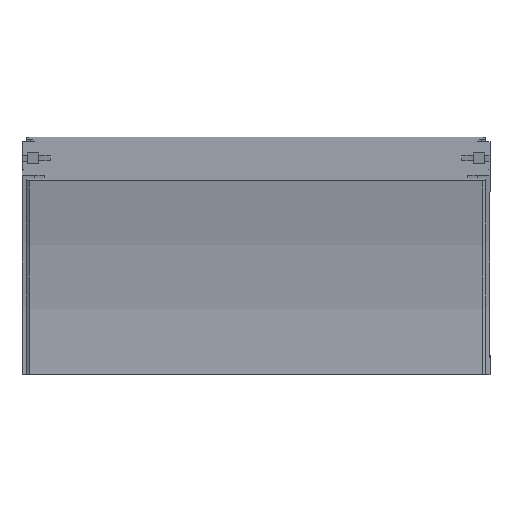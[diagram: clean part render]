
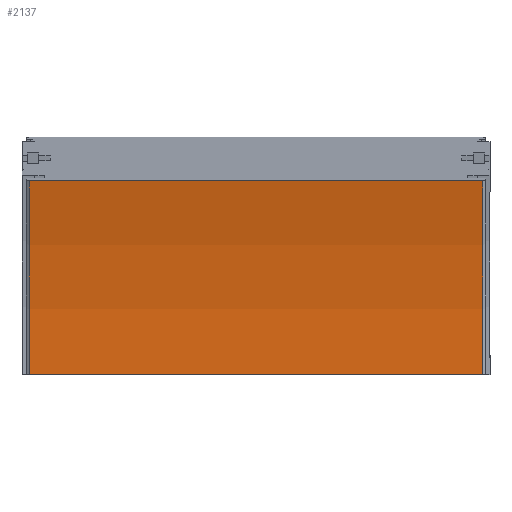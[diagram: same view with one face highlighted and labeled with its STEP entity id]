
A CAD part, top view. The second image highlights one B-rep face of the part: STEP entity #2137.
In plain terms, the highlighted cylindrical face has radius 358 mm (diameter 716 mm), a partial arc.
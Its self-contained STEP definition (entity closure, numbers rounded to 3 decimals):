
#62=CYLINDRICAL_SURFACE('',#2337,358.);
#225=CIRCLE('',#2336,358.);
#226=CIRCLE('',#2338,358.);
#336=FACE_OUTER_BOUND('',#454,.T.);
#454=EDGE_LOOP('',(#1769,#1770,#1771,#1772));
#615=LINE('',#8228,#793);
#616=LINE('',#8230,#794);
#793=VECTOR('',#2838,10.);
#794=VECTOR('',#2839,10.);
#1005=VERTEX_POINT('',#8221);
#1006=VERTEX_POINT('',#8223);
#1007=VERTEX_POINT('',#8227);
#1008=VERTEX_POINT('',#8229);
#1304=EDGE_CURVE('',#1005,#1006,#225,.T.);
#1305=EDGE_CURVE('',#1007,#1005,#615,.T.);
#1306=EDGE_CURVE('',#1008,#1006,#616,.T.);
#1307=EDGE_CURVE('',#1007,#1008,#226,.T.);
#1769=ORIENTED_EDGE('',*,*,#1305,.T.);
#1770=ORIENTED_EDGE('',*,*,#1304,.T.);
#1771=ORIENTED_EDGE('',*,*,#1306,.F.);
#1772=ORIENTED_EDGE('',*,*,#1307,.F.);
#2137=ADVANCED_FACE('',(#336),#62,.F.);
#2336=AXIS2_PLACEMENT_3D('',#8225,#2834,#2835);
#2337=AXIS2_PLACEMENT_3D('',#8226,#2836,#2837);
#2338=AXIS2_PLACEMENT_3D('',#8231,#2840,#2841);
#2834=DIRECTION('center_axis',(1.,0.,0.));
#2835=DIRECTION('ref_axis',(0.,0.,
-1.));
#2836=DIRECTION('center_axis',(1.,0.,0.));
#2837=DIRECTION('ref_axis',(0.,0.,-1.));
#2838=DIRECTION('',(1.,0.,0.));
#2839=DIRECTION('',(1.,0.,0.));
#2840=DIRECTION('center_axis',(1.,0.,0.));
#2841=DIRECTION('ref_axis',(0.,0.,-1.));
#8221=CARTESIAN_POINT('',(108.5,0.,42.));
#8223=CARTESIAN_POINT('',(108.5,92.657,54.199));
#8225=CARTESIAN_POINT('Origin',(108.5,0.,400.));
#8226=CARTESIAN_POINT('Origin',(-54.25,0.,400.));
#8227=CARTESIAN_POINT('',(-108.5,0.,42.));
#8228=CARTESIAN_POINT('',(-108.5,0.,42.));
#8229=CARTESIAN_POINT('',(-108.5,92.657,54.199));
#8230=CARTESIAN_POINT('',(-108.5,92.657,54.199));
#8231=CARTESIAN_POINT('Origin',(-108.5,0.,
400.));
